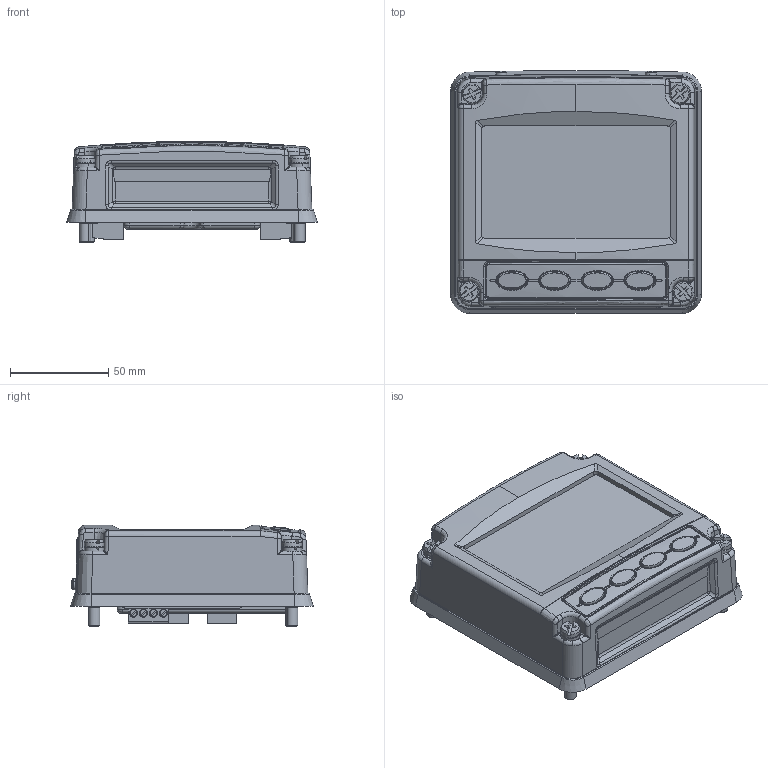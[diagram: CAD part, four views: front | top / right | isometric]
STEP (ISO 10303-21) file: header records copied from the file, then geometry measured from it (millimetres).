
FILE_DESCRIPTION (( 'STEP AP214' ), '1' );
FILE_NAME ('XX4G-SS-PM.STEP', '2019-06-03T13:58:21', ( '' ), ( '' ), 'SwSTEP 2.0', 'SolidWorks 2018', '' );
FILE_SCHEMA (( 'AUTOMOTIVE_DESIGN' ));
Length unit declared in the file: millimetre
Products named in the file (2): XX4G-SS-PM
Bounding box: 127.4 x 123.4 x 51.4 mm (x, y, z)
Volume: 439429.4 mm3; surface area: 171441.9 mm2
Topology: 27 solids, 32 shells, 2739 faces, 6805 edges, 4167 vertices
Faces by surface type: plane 1017, cylinder 636, bspline 493, cone 265, torus 212, sphere 116
Entity records: 156721 total; most frequent: CARTESIAN_POINT 64921, ORIENTED_EDGE 13530, DIRECTION 12005, EDGE_CURVE 6765, AXIS2_PLACEMENT_3D 4427, VERTEX_POINT 4167, LINE 3151, VECTOR 3151
